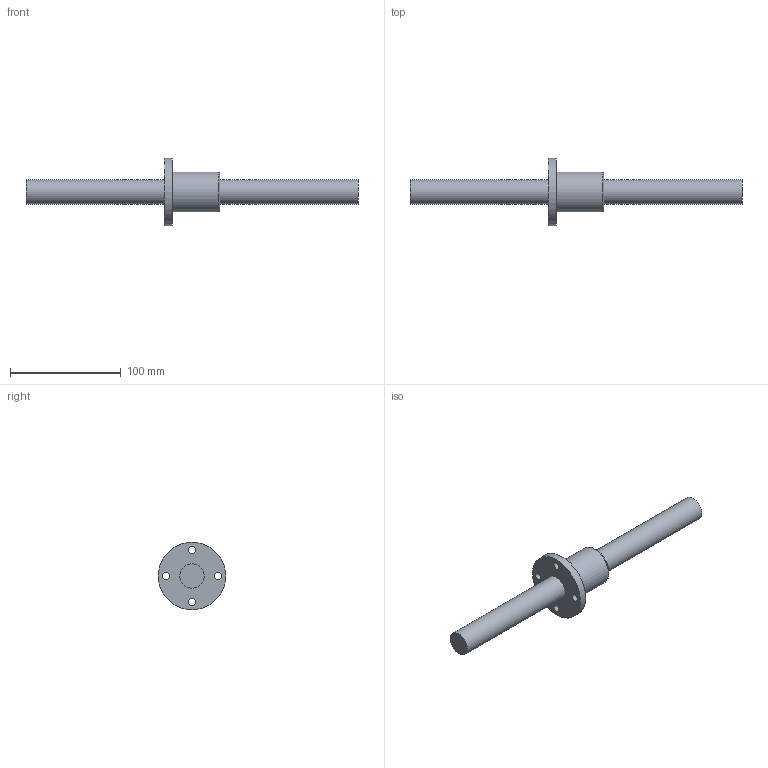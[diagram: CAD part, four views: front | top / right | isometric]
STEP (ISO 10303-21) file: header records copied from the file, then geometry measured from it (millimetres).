
FILE_DESCRIPTION((''),'2;1');
FILE_NAME('D:\製品 (図面)\カタログ用3D\ネジ関連\STEP形式\TMF\TMF22.stp','2010-06-02T14:59:29',('Tsuchiya'),(''),'Autodesk Inventor 10','Autodesk Inventor 10','');
FILE_SCHEMA(('AUTOMOTIVE_DESIGN { 1 0 10303 214 1 1 1 1 }'));
Length unit declared in the file: millimetre
Products named in the file (3): TMF22; TMF221; TMF222
Assembly tree (2 placements, depth 2):
  TMF22
    TMF221
    TMF222
Bounding box: 300 x 61 x 61 mm (x, y, z)
Volume: 158253.6 mm3; surface area: 36448.7 mm2
Topology: 2 solids, 2 shells, 15 faces, 32 edges, 22 vertices
Faces by surface type: cylinder 8, plane 5, torus 1, bspline 1
Full cylindrical faces by diameter (mm): 6.6 x4, 22 x2, 36 x1, 61 x1
Entity records: 470 total; most frequent: CARTESIAN_POINT 100, DIRECTION 74, AXIS2_PLACEMENT_3D 37, ORIENTED_EDGE 36, EDGE_LOOP 36, FACE_BOUND 21, VERTEX_POINT 18, CIRCLE 18
